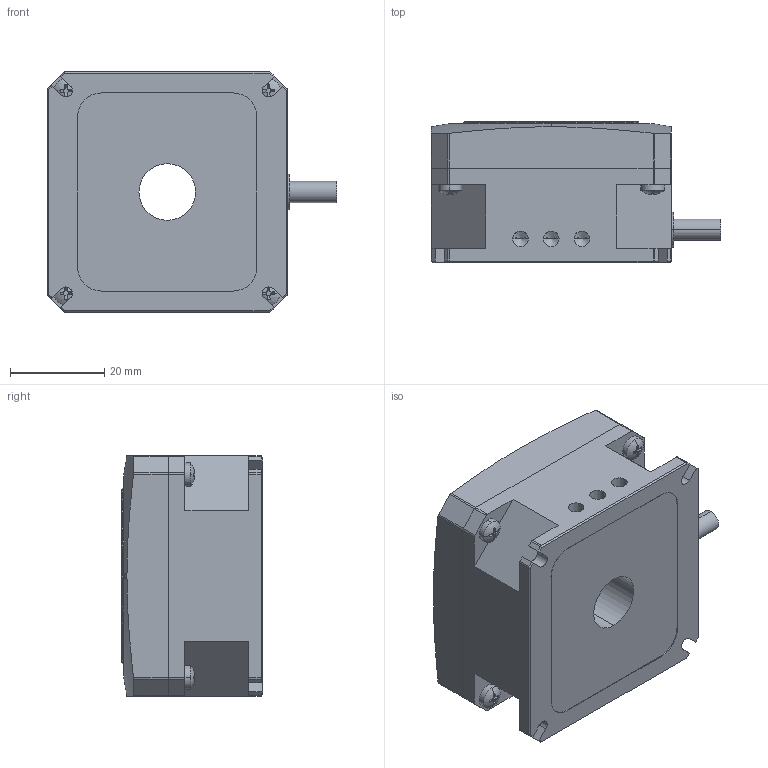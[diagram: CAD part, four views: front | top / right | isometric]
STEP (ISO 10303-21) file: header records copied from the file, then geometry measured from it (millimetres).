
FILE_DESCRIPTION (( 'STEP AP214' ), '1' );
FILE_NAME ('N61.R5E-B1旋转压电马达(发客户）.STEP', '2024-01-17T08:20:25', ( 'Sky123.Org' ), ( 'Sky123.Org' ), 'SwSTEP 2.0', 'SolidWorks 2016', '' );
FILE_SCHEMA (( 'AUTOMOTIVE_DESIGN' ));
Length unit declared in the file: millimetre
Products named in the file (1): N61.R5E-B1旋转压电马达(发客户）
Bounding box: 61.5 x 30 x 51 mm (x, y, z)
Volume: 63080.8 mm3; surface area: 23538 mm2
Topology: 8 solids, 9 shells, 1380 faces, 3806 edges, 2504 vertices
Faces by surface type: plane 1016, cylinder 152, bspline 147, cone 57, sphere 8
Entity records: 79955 total; most frequent: CARTESIAN_POINT 31005, ORIENTED_EDGE 7552, DIRECTION 6154, EDGE_CURVE 3776, VERTEX_POINT 2504, LINE 2296, VECTOR 2296, AXIS2_PLACEMENT_3D 1929
